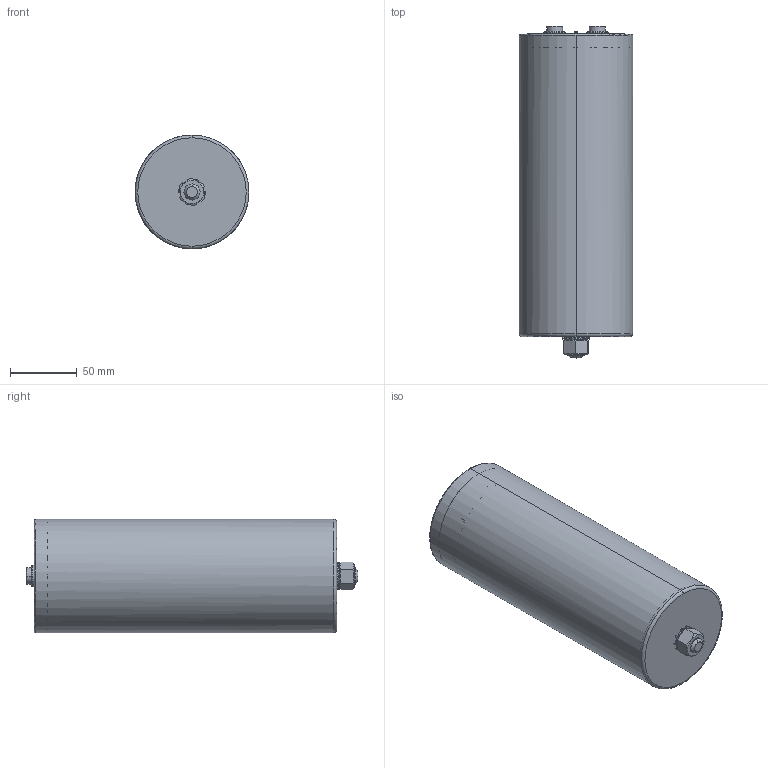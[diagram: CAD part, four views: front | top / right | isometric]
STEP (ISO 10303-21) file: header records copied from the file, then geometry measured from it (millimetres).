
FILE_DESCRIPTION (( 'STEP AP214' ), '1' );
FILE_NAME ('B25696 Series D85Hc226Ht232.STEP', '2025-03-20T05:36:48', ( '' ), ( '' ), 'SwSTEP 2.0', 'SolidWorks 2019', '' );
FILE_SCHEMA (( 'AUTOMOTIVE_DESIGN' ));
Length unit declared in the file: millimetre
Products named in the file (1): B25696 Series D85Hc226Ht232
Bounding box: 85 x 248 x 85 mm (x, y, z)
Volume: 128462.9 mm3; surface area: 157213.5 mm2
Topology: 1 solids, 2 shells, 275 faces, 754 edges, 488 vertices
Faces by surface type: plane 88, cylinder 70, cone 47, bspline 40, torus 30
Entity records: 9636 total; most frequent: CARTESIAN_POINT 3070, ORIENTED_EDGE 1500, DIRECTION 1212, EDGE_CURVE 750, VERTEX_POINT 488, AXIS2_PLACEMENT_3D 472, EDGE_LOOP 304, ADVANCED_FACE 275
